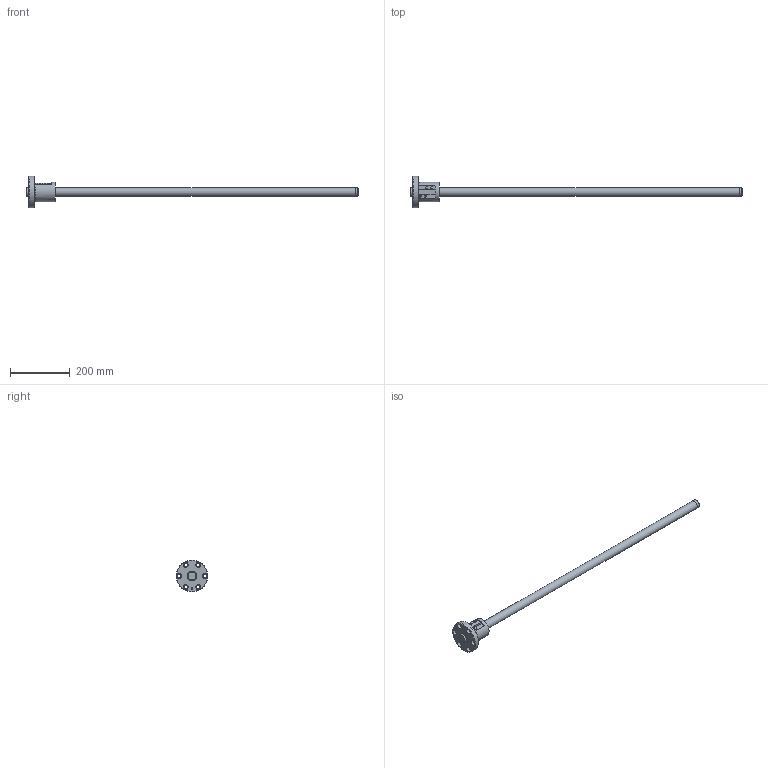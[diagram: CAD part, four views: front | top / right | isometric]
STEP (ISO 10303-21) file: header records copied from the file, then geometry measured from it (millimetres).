
FILE_DESCRIPTION( ( 'STEP AP203' ), ' ' );
FILE_NAME( 'p:/temp/worker_49/1856_1980/app_71_12018011812012336243902818fa3fd_000000_00_00_000000/format_0/BIF2810-3RRG0+1108LC0_10000.stp', '2018-01-18T11:01:24', ( '' ), ( '' ), ' ', 'PARTsolutions', ' ' );
FILE_SCHEMA( ( 'CONFIG_CONTROL_DESIGN' ) );
Length unit declared in the file: millimetre
Products named in the file (3): BIF2810-3RRG0+1108LC0_10000; _BIF 2810-3RR1000500 Shaft; _BIF 2810-3RR Nut
Assembly tree (2 placements, depth 2):
  BIF2810-3RRG0+1108LC0_10000
    _BIF 2810-3RR1000500 Shaft
    _BIF 2810-3RR Nut
Bounding box: 1108 x 106 x 106 mm (x, y, z)
Volume: 985719.8 mm3; surface area: 149478.4 mm2
Topology: 2 solids, 2 shells, 81 faces, 174 edges, 110 vertices
Faces by surface type: cylinder 39, plane 31, cone 7, torus 4
Full cylindrical faces by diameter (mm): 4.25 x2, 4.917 x1, 6.1 x4, 11 x6, 17.5 x6, 27.5 x2, 28 x4, 33 x2, 65 x1, 106 x1
Entity records: 2442 total; most frequent: CARTESIAN_POINT 682, DIRECTION 372, ORIENTED_EDGE 252, AXIS2_PLACEMENT_3D 170, EDGE_LOOP 156, EDGE_CURVE 126, FACE_OUTER_BOUND 110, VERTEX_POINT 100
